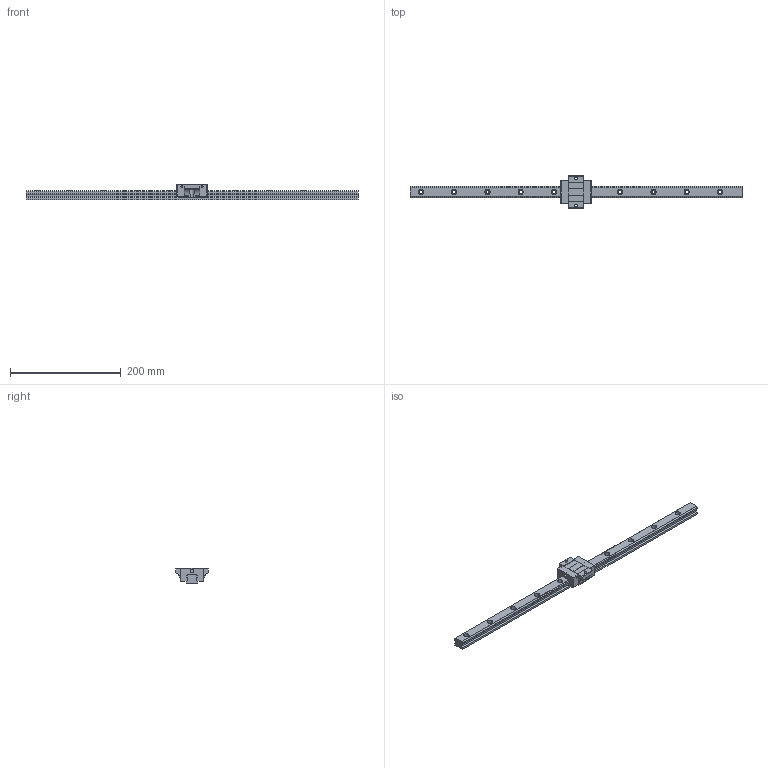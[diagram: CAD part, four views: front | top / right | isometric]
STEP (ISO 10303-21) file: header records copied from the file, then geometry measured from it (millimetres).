
FILE_DESCRIPTION (( 'STEP AP203' ), '1' );
FILE_NAME ('TRS20FS-SU.STEP', '2024-06-26T03:21:27', ( '' ), ( '' ), 'SwSTEP 2.0', 'SolidWorks 2022', '' );
FILE_SCHEMA (( 'CONFIG_CONTROL_DESIGN' ));
Length unit declared in the file: millimetre
Products named in the file (1): TRS20FS-SU
Bounding box: 600 x 59 x 28 mm (x, y, z)
Volume: 212186.6 mm3; surface area: 61324.5 mm2
Topology: 2 solids, 2 shells, 224 faces, 596 edges, 388 vertices
Faces by surface type: cylinder 116, plane 104, sphere 4
Entity records: 7263 total; most frequent: CARTESIAN_POINT 1421, DIRECTION 1238, ORIENTED_EDGE 1184, EDGE_CURVE 592, AXIS2_PLACEMENT_3D 441, VERTEX_POINT 388, VECTOR 356, LINE 356
